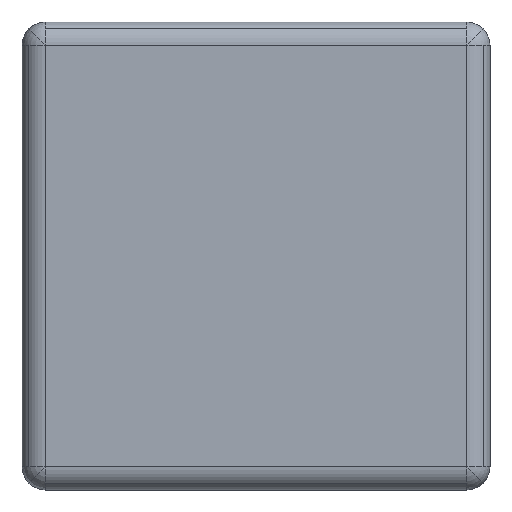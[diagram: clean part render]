
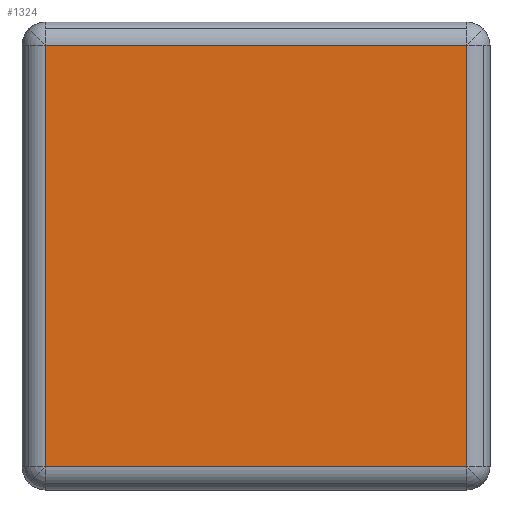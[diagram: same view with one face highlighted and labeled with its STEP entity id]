
A CAD part, front view. The second image highlights one B-rep face of the part: STEP entity #1324.
In plain terms, the highlighted planar face has unit normal (0, -1, 0).
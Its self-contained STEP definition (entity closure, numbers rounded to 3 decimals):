
#1324=ADVANCED_FACE('',(#3555),#3556,.F.);
#3555=FACE_OUTER_BOUND('',#5790,.T.);
#3556=PLANE('',#5791);
#5790=EDGE_LOOP('',(#15478,#15479,#15480,#15481));
#5791=AXIS2_PLACEMENT_3D('',#15482,#15483,#15484);
#15478=ORIENTED_EDGE('',*,*,#18654,.F.);
#15479=ORIENTED_EDGE('',*,*,#18637,.F.);
#15480=ORIENTED_EDGE('',*,*,#18644,.F.);
#15481=ORIENTED_EDGE('',*,*,#18651,.F.);
#15482=CARTESIAN_POINT('',(0.,-0.4,0.));
#15483=DIRECTION('',(0.,1.0,0.));
#15484=DIRECTION('',(0.0,0.,1.0));
#18637=EDGE_CURVE('',#23879,#23872,#23889,.T.);
#18644=EDGE_CURVE('',#23891,#23879,#23901,.T.);
#18651=EDGE_CURVE('',#23903,#23891,#23912,.T.);
#18654=EDGE_CURVE('',#23872,#23903,#23916,.T.);
#23872=VERTEX_POINT('',#32184);
#23879=VERTEX_POINT('',#32191);
#23889=LINE('',#32202,#32203);
#23891=VERTEX_POINT('',#32205);
#23901=LINE('',#32216,#32217);
#23903=VERTEX_POINT('',#32219);
#23912=LINE('',#32229,#32230);
#23916=LINE('',#32235,#32236);
#32184=CARTESIAN_POINT('',(-0.09,-0.4,0.09));
#32191=CARTESIAN_POINT('',(-0.09,-0.4,-0.09));
#32202=CARTESIAN_POINT('',(-0.09,-0.4,-0.045));
#32203=VECTOR('',#35621,1.0);
#32205=CARTESIAN_POINT('',(0.09,-0.4,-0.09));
#32216=CARTESIAN_POINT('',(0.045,-0.4,-0.09));
#32217=VECTOR('',#35638,1.0);
#32219=CARTESIAN_POINT('',(0.09,-0.4,0.09));
#32229=CARTESIAN_POINT('',(0.09,-0.4,0.045));
#32230=VECTOR('',#35655,1.0);
#32235=CARTESIAN_POINT('',(-0.045,-0.4,0.09));
#32236=VECTOR('',#35660,1.0);
#35621=DIRECTION('',(0.0,0.,1.0));
#35638=DIRECTION('',(-1.0,0.,0.0));
#35655=DIRECTION('',(0.0,0.,-1.0));
#35660=DIRECTION('',(1.0,0.,0.0));
